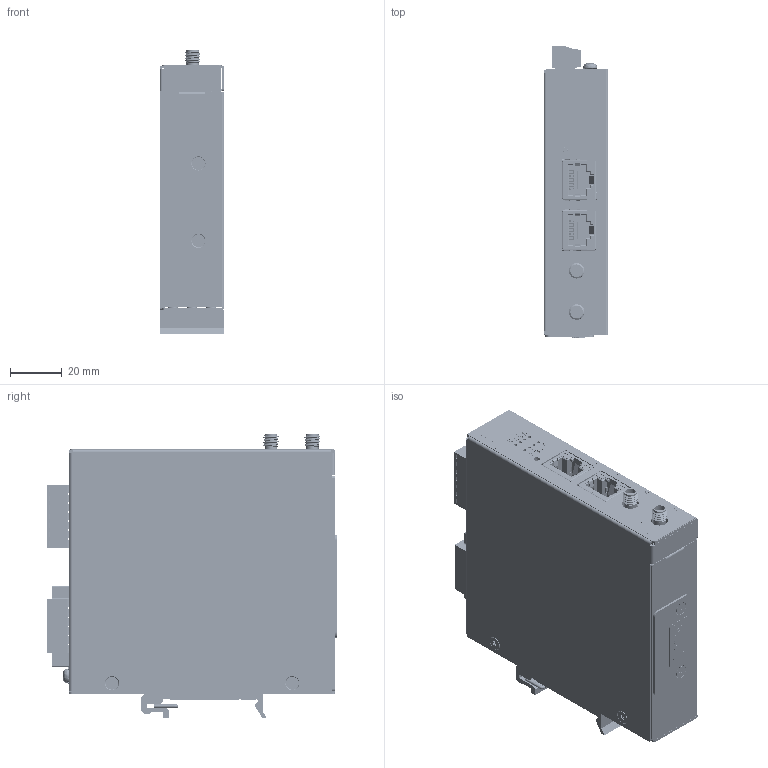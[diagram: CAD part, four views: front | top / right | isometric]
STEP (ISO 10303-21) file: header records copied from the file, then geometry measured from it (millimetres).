
FILE_DESCRIPTION (( 'STEP AP214' ), '1' );
FILE_NAME ('ICR-24xx_DIN_holder.STEP', '2024-10-04T08:29:05', ( '' ), ( '' ), 'SwSTEP 2.0', 'SolidWorks 2024', '' );
FILE_SCHEMA (( 'AUTOMOTIVE_DESIGN' ));
Length unit declared in the file: millimetre
Products named in the file (28): PUSH_SW_3P; SCR_ZC_M3_L6_PH_PW_2; RJ45_8p_ Connector; LED_HOLDER_GGGG; B-ICR24xx A103-1; ICR-2400_FRONT_Label; SIM7155-6-1-14-A_PART2; VMC-2022-04-1_Label - Insert SIM carefully_B; Chassis_for_ICR-24xx; SMA_5P_Connector; Micro_SIM_ card_Connector; Plug-In_Block_1x7P; SCR_ZC_M3_L6_PH_PW; Cover_for_ICR_24xx; VMC-2022-04-1_Label - Insert SIM carefully; Terminal_Block_1x7P; SIM7155-6-1-14-A_PART1; SCR_BK_M3_L5_PH_FL_TW_GLUE; Plug-In_Block_1x6P; Pin_Header_5x2P; ICR-24xx_DIN_holder; DIN_25_AL; SCR_BK_M3_L5_PH_FL_TW; VMC-2022-04-1_Label - Insert SIM carefully_A; PCB_ICR-20(4)xx; Plate_for_SIM_ICR-2(0,4,5,6)xx; Terminal_Block_1x6P; BTB_20P_Connector
Assembly tree (41 placements, depth 4):
  ICR-24xx_DIN_holder
    B-ICR24xx A103-1
      PCB_ICR-20(4)xx
      Micro_SIM_ card_Connector  x2
        SIM7155-6-1-14-A_PART1
        SIM7155-6-1-14-A_PART2
      Terminal_Block_1x7P
      Pin_Header_5x2P
      Terminal_Block_1x6P
      PUSH_SW_3P
      SMA_5P_Connector  x2
      LED_HOLDER_GGGG  x2
      RJ45_8p_ Connector  x2
      BTB_20P_Connector
    Chassis_for_ICR-24xx
    Cover_for_ICR_24xx
    Plate_for_SIM_ICR-2(0,4,5,6)xx
    Plug-In_Block_1x7P
    Plug-In_Block_1x6P
    ICR-2400_FRONT_Label
    VMC-2022-04-1_Label - Insert SIM carefully
      VMC-2022-04-1_Label - Insert SIM carefully_A
      VMC-2022-04-1_Label - Insert SIM carefully_B
    SCR_BK_M3_L5_PH_FL_TW  x5
    SCR_BK_M3_L5_PH_FL_TW_GLUE  x4
    SCR_ZC_M3_L6_PH_PW_2
    SCR_ZC_M3_L6_PH_PW  x4
    DIN_25_AL
Bounding box: 25 x 112.9 x 110.35 mm (x, y, z)
Volume: 61450.7 mm3; surface area: 114757.2 mm2
Topology: 57 solids, 75 shells, 12364 faces, 34513 edges, 22344 vertices
Faces by surface type: plane 8111, cylinder 2770, bspline 1003, cone 295, torus 109, sphere 76
Entity records: 425548 total; most frequent: CARTESIAN_POINT 103463, ORIENTED_EDGE 50402, DIRECTION 43715, EDGE_CURVE 25204, LINE 18929, VECTOR 18929, VERTEX_POINT 16316, AXIS2_PLACEMENT_3D 12393
